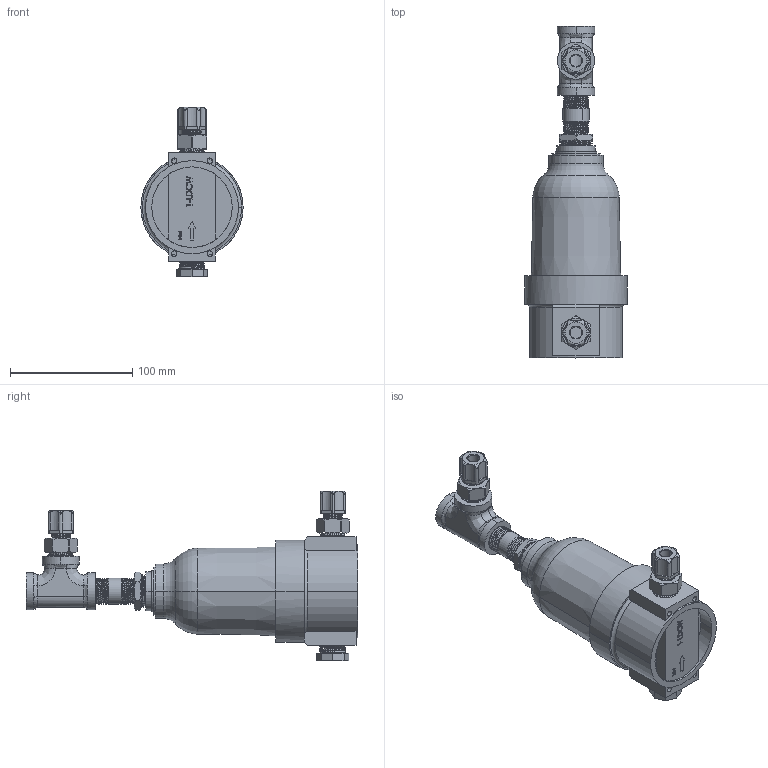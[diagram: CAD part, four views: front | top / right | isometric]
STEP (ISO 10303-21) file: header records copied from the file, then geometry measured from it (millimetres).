
FILE_DESCRIPTION (( 'STEP AP214' ), '1' );
FILE_NAME ('9-1145-01.STEP', '2018-07-25T16:45:35', ( '' ), ( '' ), 'SwSTEP 2.0', 'SolidWorks 2017', '' );
FILE_SCHEMA (( 'AUTOMOTIVE_DESIGN' ));
Length unit declared in the file: inch
Products named in the file (1): 9-1145-01
Bounding box: 83.82 x 272.03 x 138.97 mm (x, y, z)
Surface area: 82650.7 mm2 (no closed solid volume)
Topology: 0 solids, 21 shells, 565 faces, 1735 edges, 1176 vertices
Faces by surface type: cone 195, cylinder 171, plane 129, bspline 59, torus 11
Entity records: 60860 total; most frequent: CARTESIAN_POINT 39689, ORIENTED_EDGE 3049, DIRECTION 2379, EDGE_CURVE 1735, VERTEX_POINT 1176, AXIS2_PLACEMENT_3D 841, LINE 697, VECTOR 697
